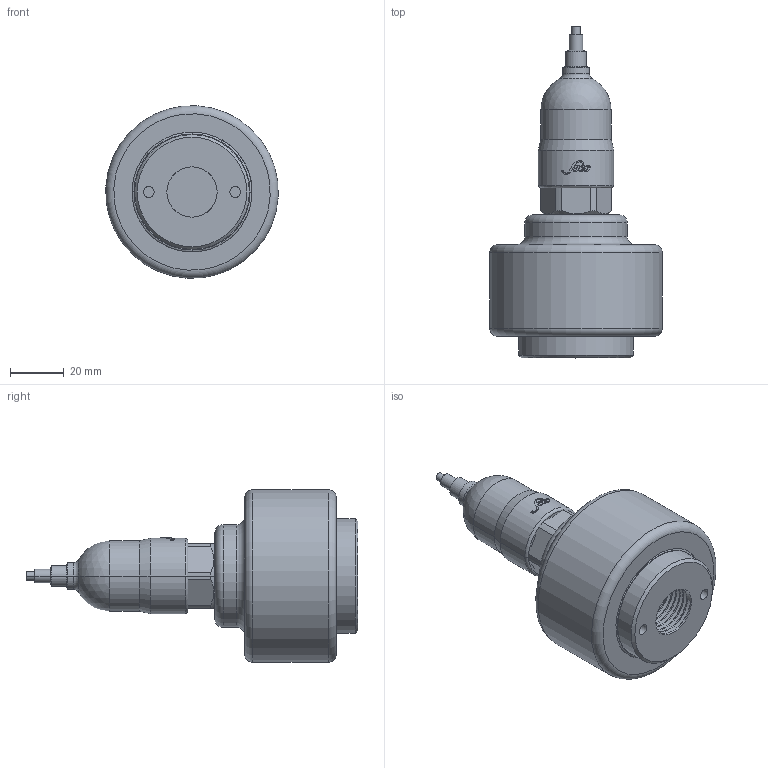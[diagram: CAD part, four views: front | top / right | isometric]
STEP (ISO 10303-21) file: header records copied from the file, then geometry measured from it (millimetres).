
FILE_DESCRIPTION (( 'STEP AP214' ), '1' );
FILE_NAME ('1-2-P441-1X-NC.STEP', '2021-11-25T13:02:37', ( '' ), ( '' ), 'SwSTEP 2.0', 'SolidWorks 2020', '' );
FILE_SCHEMA (( 'AUTOMOTIVE_DESIGN' ));
Length unit declared in the file: millimetre
Products named in the file (5): 1-2-P441-1X-NC; Switch Boot; 0.5 inch gauge seal housing - PP; 0.25 inch gauge seal plug - PP; 0166-03-spade
Assembly tree (4 placements, depth 2):
  1-2-P441-1X-NC
    0.25 inch gauge seal plug - PP
    0.5 inch gauge seal housing - PP
    0166-03-spade
    Switch Boot
Bounding box: 63.89 x 123 x 63.89 mm (x, y, z)
Volume: 147011.3 mm3; surface area: 38469.2 mm2
Topology: 4 solids, 4 shells, 445 faces, 1126 edges, 713 vertices
Faces by surface type: cylinder 204, plane 144, torus 33, cone 31, bspline 29, sphere 4
Full cylindrical faces by diameter (mm): 4 x2, 18.631 x7, 21.996 x1, 38 x1, 42.6 x1, 44.5 x9, 64 x1
Entity records: 24854 total; most frequent: CARTESIAN_POINT 14378, ORIENTED_EDGE 2096, DIRECTION 1932, EDGE_CURVE 1048, AXIS2_PLACEMENT_3D 755, VERTEX_POINT 671, EDGE_LOOP 479, FACE_OUTER_BOUND 443
